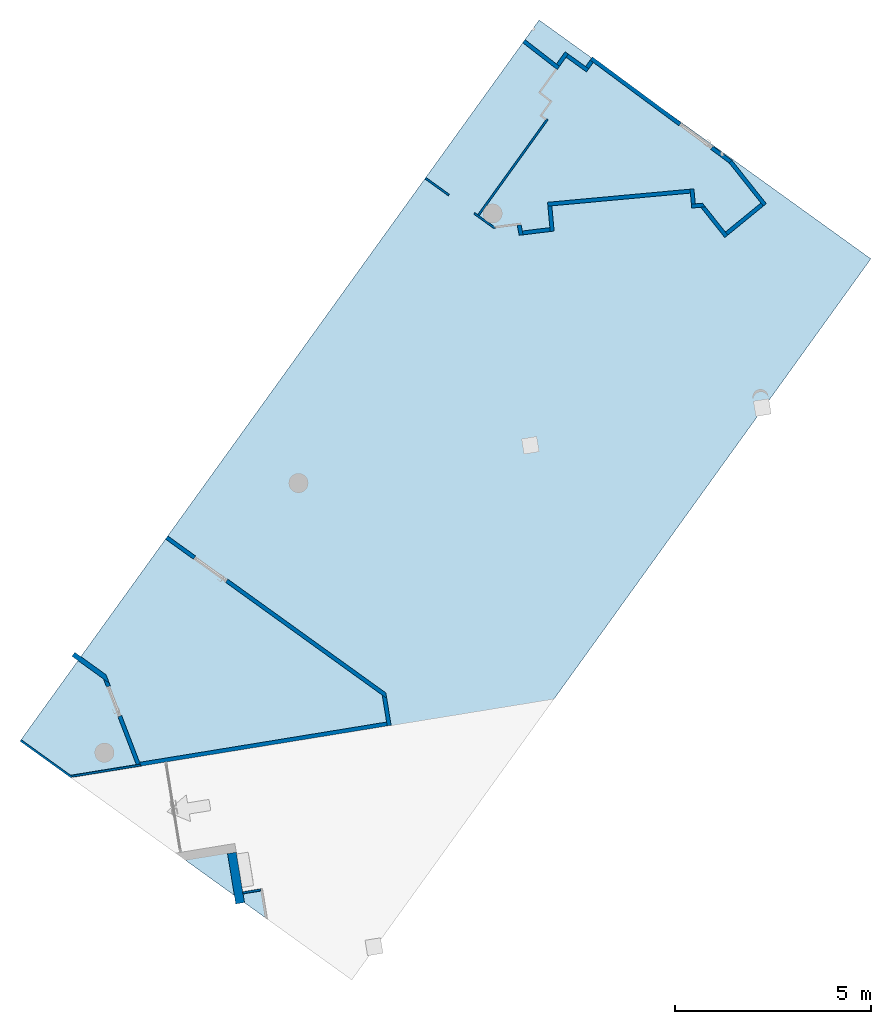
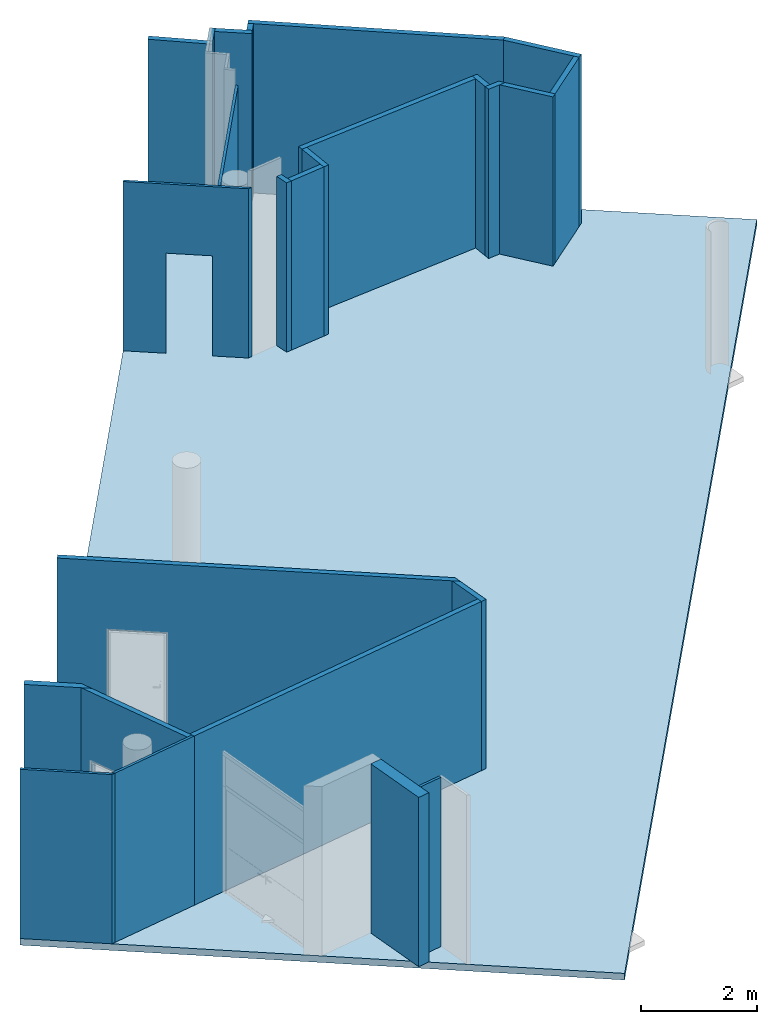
# One storey, part 3 of 10: 25 walls, 1 slab, 4 openings.
"""IFC2X3 building model written with IfcOpenShell, lengths in millimetres."""

from ifc_helpers import new_model, entity, si_unit, converted_unit, derived_unit, direction, frame, frame_2d, origin, origin_with_axes, place, context, subcontext, project, spatial, polyline, rectangle, outline, extrude, clip, bounded_halfspace, faceted_brep, material, layer, layer_set, layer_usage, type_object, element, save


model = new_model("IFC2X3")

# Units and contexts
model_context = context("Model", 3, precision=0.01, world=origin(), true_north=direction((6.12323399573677e-17, 1.0)))
plan_context = context("Plan", 3, precision=1e-05, world=origin_with_axes())
body_context = subcontext(model_context, "Body", "Model", "MODEL_VIEW")
ifc_project = project(units=[converted_unit("PLANEANGLEUNIT", "DEGREE", entity("IfcPositiveLengthMeasure", 0.0174532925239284), si_unit("PLANEANGLEUNIT", "RADIAN"), dimensions=[0, 0, 0, 0, 0, 0, 0]), si_unit("AREAUNIT", "SQUARE_METRE"), si_unit("LENGTHUNIT", "METRE", prefix="MILLI"), si_unit("MASSUNIT", "GRAM", prefix="KILO"), si_unit("POWERUNIT", "WATT"), si_unit("PRESSUREUNIT", "PASCAL", prefix="KILO"), si_unit("FORCEUNIT", "NEWTON", prefix="KILO"), si_unit("ELECTRICVOLTAGEUNIT", "VOLT"), si_unit("ELECTRICCURRENTUNIT", "AMPERE"), si_unit("THERMODYNAMICTEMPERATUREUNIT", "DEGREE_CELSIUS"), si_unit("TIMEUNIT", "SECOND"), si_unit("VOLUMEUNIT", "CUBIC_METRE"), derived_unit("LINEARVELOCITYUNIT", [(si_unit("LENGTHUNIT", "METRE"), 1), (si_unit("TIMEUNIT", "SECOND"), -1)]), derived_unit("VOLUMETRICFLOWRATEUNIT", [(si_unit("VOLUMEUNIT", "CUBIC_METRE"), 1), (si_unit("TIMEUNIT", "SECOND"), -1)]), derived_unit("THERMALTRANSMITTANCEUNIT", [(si_unit("POWERUNIT", "WATT"), 1), (si_unit("THERMODYNAMICTEMPERATUREUNIT", "KELVIN"), -1), (si_unit("AREAUNIT", "SQUARE_METRE"), -1)]), derived_unit("SOUNDPRESSUREUNIT", [(si_unit("PRESSUREUNIT", "PASCAL"), 1)])], contexts=[model_context, plan_context])

# Site, building, storey
site_placement = place(None, frame((-305029.896016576, -232111.759730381, 0.0), z_axis=(0.0, 0.0, 1.0), x_axis=(-0.160806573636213, 0.986985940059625, 0.0)))
site = spatial("IfcSite", under=ifc_project, at=site_placement, Name="Default", CompositionType="ELEMENT")
building_placement = place(site_placement, frame((0.0, 0.0, 0.0), z_axis=(0.0, 0.0, 1.0), x_axis=(1.0, -2.77555756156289e-17, 0.0)))
building = spatial("IfcBuilding", under=site, at=building_placement, Name="br001-a-200-1-0001", CompositionType="ELEMENT")
storey_placement = place(building_placement, frame((0.0, 0.0, 55500.0), z_axis=(0.0, 0.0, 1.0), x_axis=(1.0, -2.77555756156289e-17, 0.0)))
storey = spatial("IfcBuildingStorey", under=building, at=storey_placement, Name="H02-Nivå F-3,5 m", CompositionType="ELEMENT", Elevation=55500.0)

# Slab
ifc_material_1 = material(Name="<Unnamed>")
ifc_layer_1 = layer(ifc_material_1, 138.0)
ifc_layer_set_1 = layer_set([ifc_layer_1], Name="Floor:Generic 138mm")
slab_type = type_object("IfcSlabType", Name="Floor:Generic 138mm", PredefinedType="FLOOR", material=ifc_layer_set_1)
slab_placement = place(storey_placement, frame((1099062.59858442, -755896.827798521, -138.0), z_axis=(0.0, 0.0, 1.0), x_axis=(1.0, -2.77555756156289e-17, 0.0)))
element("IfcSlab", 1, at=slab_placement, inside=storey, type_object=slab_type, Name="Floor:Generic 138mm", ObjectType="Floor:Generic 138mm", PredefinedType="FLOOR", context=body_context, shape_type="Brep", body=[
    faceted_brep([(72870.3046178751, 75828.0487035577, 138.0), (80253.4119063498, 83211.1559920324, 138.0), (96301.6649817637, 67162.9029166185, 138.0), (88918.557693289, 59779.7956281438, 138.0), (80253.4119063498, 83211.1559920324, -3.18323145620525e-12), (72870.3046178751, 75828.0487035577, -3.18323145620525e-12), (88918.557693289, 59779.7956281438, -3.18323145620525e-12), (96301.6649817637, 67162.9029166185, -3.18323145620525e-12)], [[[0, 1, 2, 3]], [[4, 5, 6, 7]], [[3, 2, 7, 6]], [[2, 1, 4, 7]], [[1, 0, 5, 4]], [[0, 3, 6, 5]]], orient=[[False], [False], [False], [False], [False], [False]]),
])

# Walls
ifc_material_2 = material(Name="_NSW Standard")
ifc_layer_2 = layer(ifc_material_2, 125.0)
ifc_layer_set_2 = layer_set([ifc_layer_2], Name="Basic Wall:A242 - Standard 125")
ifc_layer_usage_1 = layer_usage(ifc_layer_set_2, "AXIS2", "NEGATIVE", 62.5)
wall_type_1 = type_object("IfcWallType", Name="Basic Wall:A242 - Standard 125", PredefinedType="STANDARD", material=ifc_layer_set_2)
wall_1_placement = place(storey_placement, frame((1181287.61254209, -674388.573280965, 0.0), z_axis=(0.0, 0.0, 1.0), x_axis=(-0.707106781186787, -0.707106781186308, 0.0)))
element("IfcWallStandardCase", 2, at=wall_1_placement, inside=storey, type_object=wall_type_1, material=ifc_layer_usage_1, Name="Basic Wall:A242 - Standard 125", ObjectType="Basic Wall:A242 - Standard 125", context=body_context, shape_type="SweptSolid", body=[
    extrude(outline(polyline([(1172.83683071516, -62.5000000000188), (982.376188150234, 62.4999999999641), (0.0, 62.4999999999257), (0.0, -62.5000000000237), (990.58380858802, -62.5000000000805), (1172.83683071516, -62.5000000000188)])), origin(), (0.0, 0.0, 1.0), 3550.00000000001),
])
ifc_layer_3 = layer(ifc_material_2, 225.0)
ifc_layer_set_3 = layer_set([ifc_layer_3], Name="Basic Wall:A242 - Standard 225")
ifc_layer_usage_2 = layer_usage(ifc_layer_set_3, "AXIS2", "NEGATIVE", 112.5)
wall_type_2 = type_object("IfcWallType", Name="Basic Wall:A242 - Standard 225", PredefinedType="STANDARD", material=ifc_layer_set_3)
wall_2_placement = place(storey_placement, frame((1175629.09858442, -677568.878367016, 0.0), z_axis=(0.0, 0.0, 1.0), x_axis=(-1.0, 2.77555756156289e-17, 0.0)))
element("IfcWallStandardCase", 3, at=wall_2_placement, inside=storey, type_object=wall_type_2, material=ifc_layer_usage_2, Name="Basic Wall:A242 - Standard 225", ObjectType="Basic Wall:A242 - Standard 225", context=body_context, shape_type="Clipping", body=[
    clip(extrude(rectangle(XDim=1302.00000000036, YDim=225.000000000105, at=frame_2d((651.000000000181, 3.42126327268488e-11), x_axis=(-1.0, 0.0))), origin(), (0.0, 0.0, 1.0), 3550.00000000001), bounded_halfspace(frame((0.0, -112.499999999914, 3550.0), z_axis=(0.0, 0.0, -1.0), x_axis=(-1.0, 0.0, 0.0)), True, frame((0.0, -112.499999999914, 3550.0)), polyline([(0.0, 0.0), (1077.0, 0.0), (1302.0, 0.0), (1302.0, 225.0), (1075.50000000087, 225.0), (1025.50000000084, 225.0), (0.0, 225.0), (0.0, 0.0)]))),
])
ifc_material_3 = material(Name="Glass")
ifc_layer_4 = layer(ifc_material_3, 50.0)
ifc_layer_set_4 = layer_set([ifc_layer_4], Name="Basic Wall:NSW Innvendig - Glassvegg 50")
ifc_layer_usage_3 = layer_usage(ifc_layer_set_4, "AXIS2", "NEGATIVE", 25.0)
wall_type_3 = type_object("IfcWallType", Name="Basic Wall:NSW Innvendig - Glassvegg 50", PredefinedType="STANDARD", material=ifc_layer_set_4)
wall_3_placement = place(storey_placement, frame((1179333.6881603, -672703.349476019, 0.0), z_axis=(0.0, 0.0, 1.0), x_axis=(-0.70710678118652, -0.707106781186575, 0.0)))
element("IfcWallStandardCase", 4, at=wall_3_placement, inside=storey, type_object=wall_type_3, material=ifc_layer_usage_3, Name="Basic Wall:NSW Innvendig - Glassvegg 50", ObjectType="Basic Wall:NSW Innvendig - Glassvegg 50", context=body_context, shape_type="Clipping", body=[
    clip(extrude(outline(polyline([(1588.74435409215, -25.0), (1638.74435409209, 25.0), (1568.03367597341, 25.0), (0.0, 25.0), (0.0, -25.0), (1588.74435409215, -25.0)])), origin(), (0.0, 0.0, 1.0), 3550.00000000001), bounded_halfspace(frame((0.0, -25.0, 3550.0), z_axis=(0.0, 0.0, -1.0), x_axis=(-0.707106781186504, 0.707106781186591, 0.0)), True, frame((0.0, -25.0, 3550.0)), polyline([(0.0, 0.0), (1588.74435409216, 0.0), (1638.74435409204, 50.0), (1568.03367597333, 50.0), (0.0, 50.0), (0.0, 0.0)]))),
])
ifc_layer_usage_4 = layer_usage(ifc_layer_set_4, "AXIS2", "NEGATIVE", 25.0)
wall_4_placement = place(storey_placement, frame((1178217.59858442, -673829.794390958, 0.0), z_axis=(0.0, 0.0, 1.0), x_axis=(-2.77555756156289e-17, -1.0, 0.0)))
element("IfcWallStandardCase", 5, at=wall_4_placement, inside=storey, type_object=wall_type_3, material=ifc_layer_usage_4, Name="Basic Wall:NSW Innvendig - Glassvegg 50", ObjectType="Basic Wall:NSW Innvendig - Glassvegg 50", context=body_context, shape_type="Clipping", body=[
    clip(extrude(outline(polyline([(1804.88463805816, -25.0), (1794.50923242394, 25.0), (1692.37894226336, 25.0), (0.0, 25.0), (50.0, -25.0), (1804.88463805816, -25.0)])), origin(), (0.0, 0.0, 1.0), 3550.00000000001), bounded_halfspace(frame((50.0, -25.0, 3550.0), z_axis=(0.0, 0.0, -1.0), x_axis=(0.0, 1.0, 0.0)), True, frame((50.0, -25.0, 3550.0)), polyline([(0.0, 0.0), (1754.88463805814, 0.0), (1744.50923242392, 50.0), (1642.37894226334, 50.0), (-50.0, 50.0), (0.0, 0.0)]))),
])
ifc_layer_usage_5 = layer_usage(ifc_layer_set_4, "AXIS2", "NEGATIVE", 25.0)
wall_5_placement = place(storey_placement, frame((1174578.59858442, -678138.878367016, 0.0), z_axis=(0.0, 0.0, 1.0), x_axis=(2.77555756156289e-17, 1.0, 0.0)))
element("IfcWallStandardCase", 6, at=wall_5_placement, inside=storey, type_object=wall_type_3, material=ifc_layer_usage_5, Name="Basic Wall:NSW Innvendig - Glassvegg 50", ObjectType="Basic Wall:NSW Innvendig - Glassvegg 50", context=body_context, shape_type="SweptSolid", body=[
    extrude(rectangle(XDim=457.499999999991, YDim=50.0000000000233, at=frame_2d((228.749999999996, 0.0), x_axis=(-1.0, 0.0))), origin(), (0.0, 0.0, 1.0), 3550.00000000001),
])

# Wall, opening
ifc_layer_5 = layer(ifc_material_2, 100.0)
ifc_layer_set_5 = layer_set([ifc_layer_5], Name="Basic Wall:A242 - Standard 100")
ifc_layer_usage_6 = layer_usage(ifc_layer_set_5, "AXIS2", "NEGATIVE", 50.0)
wall_type_4 = type_object("IfcWallType", Name="Basic Wall:A242 - Standard 100", PredefinedType="STANDARD", material=ifc_layer_set_5)
wall_6_placement = place(storey_placement, frame((1183848.43470284, -677218.09601856, 0.0), z_axis=(0.0, 0.0, 1.0), x_axis=(-0.707106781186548, -0.707106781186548, 0.0)))
wall_6 = element("IfcWallStandardCase", 7, at=wall_6_placement, inside=storey, type_object=wall_type_4, material=ifc_layer_usage_6, Name="Basic Wall:A242 - Standard 100", ObjectType="Basic Wall:A242 - Standard 100", context=body_context, shape_type="SweptSolid", body=[
    extrude(outline(polyline([(0.0, -50.0), (6821.65383766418, -50.0), (6963.07519390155, -50.0), (6863.07519390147, 50.0), (0.0, 50.0), (0.0, -50.0)])), origin(), (0.0, 0.0, 1.0), 3550.00000000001),
])
opening_1_placement = place(wall_6_placement, frame((1889.99999999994, 50.0000000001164, 0.0), z_axis=(0.0, 0.0, 1.0), x_axis=(1.0, 5.55111512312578e-17, 0.0)))
element("IfcOpeningElement", 8, at=opening_1_placement, cuts=wall_6, Name="NSW Innvendig slagdør, enkel:ID-10M x 21M:1", ObjectType="Opening", context=body_context, shape_type="SweptSolid", body=[
    extrude(rectangle(XDim=2100.00000000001, YDim=1010.0, at=frame_2d((1050.0, 505.000000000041), x_axis=(1.0, 0.0))), frame((0.0, 0.0, 0.0), z_axis=(0.0, -1.0, 0.0), x_axis=(0.0, 0.0, 1.0)), (0.0, 0.0, 1.0), 100.0),
])

ifc_layer_usage_7 = layer_usage(ifc_layer_set_5, "AXIS2", "NEGATIVE", 50.0)
wall_7_placement = place(storey_placement, frame((1180553.12882956, -675093.784707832, 0.0), z_axis=(0.0, 0.0, 1.0), x_axis=(-0.979141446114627, -0.203179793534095, 0.0)))
wall_7 = element("IfcWallStandardCase", 9, at=wall_7_placement, inside=storey, type_object=wall_type_4, material=ifc_layer_usage_7, Name="Basic Wall:A242 - Standard 100", ObjectType="Basic Wall:A242 - Standard 100", context=body_context, shape_type="SweptSolid", body=[
    extrude(outline(polyline([(0.0, -50.0), (2349.37583797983, -50.0), (2370.12664924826, 50.0), (2319.06150416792, 50.0), (152.368514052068, 50.0), (0.0, -50.0)])), origin(), (0.0, 0.0, 1.0), 3550.00000000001),
])
opening_2_placement = place(wall_7_placement, frame((1035.58822284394, 50.0, 0.0), z_axis=(0.0, 0.0, 1.0), x_axis=(1.0, 0.0, 0.0)))
element("IfcOpeningElement", 10, at=opening_2_placement, cuts=wall_7, Name="NSW Innvendig slagdør, enkel:8M x 21M:1", ObjectType="Opening", context=body_context, shape_type="SweptSolid", body=[
    extrude(rectangle(XDim=2100.00000000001, YDim=810.0, at=frame_2d((1050.0, 405.000000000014), x_axis=(1.0, 0.0))), frame((0.0, 0.0, 0.0), z_axis=(0.0, -1.0, 0.0), x_axis=(0.0, 0.0, 1.0)), (0.0, 0.0, 1.0), 100.0),
])

# Walls
ifc_layer_usage_8 = layer_usage(ifc_layer_set_5, "AXIS2", "NEGATIVE", 50.0)
wall_8_placement = place(storey_placement, frame((1178989.44167626, -682056.37836702, 0.0), z_axis=(0.0, 0.0, 1.0), x_axis=(-1.0, 2.77555756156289e-17, 0.0)))
element("IfcWallStandardCase", 11, at=wall_8_placement, inside=storey, type_object=wall_type_4, material=ifc_layer_usage_8, Name="Basic Wall:A242 - Standard 100", ObjectType="Basic Wall:A242 - Standard 100", context=body_context, shape_type="SweptSolid", body=[
    extrude(outline(polyline([(796.843091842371, -50.0), (796.843091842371, 50.0), (100.0, 50.0), (0.0, -50.0), (696.843091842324, -50.0), (796.843091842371, -50.0)])), origin(), (0.0, 0.0, 1.0), 3550.00000000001),
])
ifc_layer_usage_9 = layer_usage(ifc_layer_set_5, "AXIS2", "NEGATIVE", 50.0)
wall_9_placement = place(storey_placement, frame((1178242.59858442, -682006.37836702, 0.0), z_axis=(0.0, 0.0, 1.0), x_axis=(2.77555756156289e-17, 1.0, 0.0)))
element("IfcWallStandardCase", 12, at=wall_9_placement, inside=storey, type_object=wall_type_4, material=ifc_layer_usage_9, Name="Basic Wall:A242 - Standard 100", ObjectType="Basic Wall:A242 - Standard 100", context=body_context, shape_type="SweptSolid", body=[
    extrude(outline(polyline([(6392.45014927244, -50.0), (6382.07474363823, 0.0), (6371.69933800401, 50.0), (0.0, 50.0), (0.0, -50.0), (6392.45014927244, -50.0)])), origin(), (0.0, 0.0, 1.0), 3550.00000000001),
])

# Wall, opening
ifc_layer_usage_10 = layer_usage(ifc_layer_set_5, "AXIS2", "NEGATIVE", 50.0)
wall_10_placement = place(storey_placement, frame((1194179.32891897, -689890.815086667, 0.0), z_axis=(0.0, 0.0, 1.0), x_axis=(-0.716617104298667, -0.697466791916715, 0.0)))
wall_10 = element("IfcWallStandardCase", 13, at=wall_10_placement, inside=storey, type_object=wall_type_4, material=ifc_layer_usage_10, Name="Basic Wall:A242 - Standard 100", ObjectType="Basic Wall:A242 - Standard 100", context=body_context, shape_type="SweptSolid", body=[
    extrude(outline(polyline([(1.35425574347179, -50.0), (101.363425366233, -50.0), (4419.81441258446, -50.0), (4433.01492273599, 50.0), (4308.2686197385, 50.0), (4164.89261795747, 50.0), (0.0, 50.0), (1.35425574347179, -50.0)])), origin(), (0.0, 0.0, 1.0), 3550.00000000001),
])
opening_3_placement = place(wall_10_placement, frame((2821.17210464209, -50.0, 0.0), z_axis=(0.0, 0.0, 1.0), x_axis=(1.0, 0.0, 0.0)))
element("IfcOpeningElement", 14, at=opening_3_placement, cuts=wall_10, Name="NSW Innvendig slagdør, enkel:ID-10M x 21M:1", ObjectType="Opening", context=body_context, shape_type="SweptSolid", body=[
    extrude(rectangle(XDim=2100.00000000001, YDim=1010.0, at=frame_2d((1050.0, 505.000000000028), x_axis=(1.0, 0.0))), frame((0.0, 0.0, 0.0), z_axis=(0.0, 1.0, 0.0), x_axis=(0.0, 0.0, 1.0)), (0.0, 0.0, 1.0), 100.0),
])

# Walls
ifc_layer_usage_11 = layer_usage(ifc_layer_set_5, "AXIS2", "POSITIVE", -50.0)
wall_11_placement = place(storey_placement, frame((1190003.343422, -692083.401710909, 0.0), z_axis=(0.0, 0.0, 1.0), x_axis=(-0.873054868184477, -0.487621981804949, 0.0)))
element("IfcWallStandardCase", 15, at=wall_11_placement, inside=storey, type_object=wall_type_4, material=ifc_layer_usage_11, Name="Basic Wall:A242 - Standard 100", ObjectType="Basic Wall:A242 - Standard 100", context=body_context, shape_type="SweptSolid", body=[
    extrude(outline(polyline([(987.555520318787, -50.0), (986.131935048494, 50.0), (886.121802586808, 50.0), (65.4169629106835, 50.0), (0.0, -50.0), (987.555520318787, -50.0)])), origin(), (0.0, 0.0, 1.0), 3550.00000000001),
])
ifc_layer_usage_12 = layer_usage(ifc_layer_set_5, "AXIS2", "POSITIVE", -50.0)
wall_12_placement = place(storey_placement, frame((1189210.07850471, -692582.914062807, 0.0), z_axis=(0.0, 0.0, 1.0), x_axis=(0.500000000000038, -0.866025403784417, 0.0)))
element("IfcWallStandardCase", 16, at=wall_12_placement, inside=storey, type_object=wall_type_4, material=ifc_layer_usage_12, Name="Basic Wall:A242 - Standard 100", ObjectType="Basic Wall:A242 - Standard 100", context=body_context, shape_type="SweptSolid", body=[
    extrude(outline(polyline([(1170.77632955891, -50.0), (1172.19991482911, 50.0), (1.42358527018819, 50.0), (0.0, -50.0), (1170.77632955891, -50.0)])), origin(), (0.0, 0.0, 1.0), 3550.00000000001),
])
ifc_layer_usage_13 = layer_usage(ifc_layer_set_5, "AXIS2", "NEGATIVE", 50.0)
wall_13_placement = place(storey_placement, frame((1190631.04988463, -688240.994209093, 0.0), z_axis=(0.0, 0.0, 1.0), x_axis=(-0.997555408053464, 0.069879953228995, 0.0)))
element("IfcWallStandardCase", 17, at=wall_13_placement, inside=storey, type_object=wall_type_4, material=ifc_layer_usage_13, Name="Basic Wall:A242 - Standard 100", ObjectType="Basic Wall:A242 - Standard 100", context=body_context, shape_type="SweptSolid", body=[
    extrude(outline(polyline([(650.188236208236, -50.0), (647.240230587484, 50.0), (0.0, 50.0), (0.0, -50.0), (550.14479195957, -50.0), (650.188236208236, -50.0)])), origin(), (0.0, 0.0, 1.0), 3550.00000000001),
])
ifc_layer_usage_14 = layer_usage(ifc_layer_set_5, "AXIS2", "NEGATIVE", 50.0)
wall_14_placement = place(storey_placement, frame((1190035.78490056, -688150.649626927, 0.0), z_axis=(0.0, 0.0, 1.0), x_axis=(0.0404543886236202, 0.999181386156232, 0.0)))
element("IfcWallStandardCase", 18, at=wall_14_placement, inside=storey, type_object=wall_type_4, material=ifc_layer_usage_14, Name="Basic Wall:A242 - Standard 100", ObjectType="Basic Wall:A242 - Standard 100", context=body_context, shape_type="SweptSolid", body=[
    extrude(outline(polyline([(708.373740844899, -50.0), (700.822233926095, 50.0), (2.94800562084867, 50.0), (0.0, -50.0), (708.373740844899, -50.0)])), origin(), (0.0, 0.0, 1.0), 3550.00000000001),
])
ifc_layer_usage_15 = layer_usage(ifc_layer_set_5, "AXIS2", "NEGATIVE", 50.0)
wall_15_placement = place(storey_placement, frame((1191013.04684223, -692974.873895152, 0.0), z_axis=(0.0, 0.0, 1.0), x_axis=(-0.873054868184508, -0.487621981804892, 0.0)))
element("IfcWallStandardCase", 19, at=wall_15_placement, inside=storey, type_object=wall_type_4, material=ifc_layer_usage_15, Name="Basic Wall:A242 - Standard 100", ObjectType="Basic Wall:A242 - Standard 100", context=body_context, shape_type="SweptSolid", body=[
    extrude(outline(polyline([(1416.29167753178, -50.0), (1414.8680922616, 50.0), (0.0, 50.0), (13.2005101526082, -50.0), (1316.2815450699, -50.0), (1416.29167753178, -50.0)])), origin(), (0.0, 0.0, 1.0), 3550.00000000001),
])
ifc_layer_usage_16 = layer_usage(ifc_layer_set_5, "AXIS2", "NEGATIVE", 50.0)
wall_16_placement = place(storey_placement, frame((1194894.27008661, -688261.420727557, 0.0), z_axis=(0.0, 0.0, 1.0), x_axis=(-0.731767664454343, -0.681554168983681, 0.0)))
element("IfcWallStandardCase", 20, at=wall_16_placement, inside=storey, type_object=wall_type_4, material=ifc_layer_usage_16, Name="Basic Wall:A242 - Standard 100", ObjectType="Basic Wall:A242 - Standard 100", context=body_context, shape_type="SweptSolid", body=[
    extrude(outline(polyline([(1118.56376791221, -50.0), (1115.01089734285, 50.0), (1014.94780280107, 50.0), (0.0, 50.0), (0.0, -50.0), (1068.53222064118, -50.0), (1118.56376791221, -50.0)])), origin(), (0.0, 0.0, 1.0), 3550.00000000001),
])
ifc_layer_usage_17 = layer_usage(ifc_layer_set_5, "AXIS2", "NEGATIVE", 50.0)
wall_17_placement = place(storey_placement, frame((1194147.77421393, -689022.594097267, 0.0), z_axis=(0.0, 0.0, 1.0), x_axis=(0.707106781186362, -0.707106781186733, 0.0)))
element("IfcWallStandardCase", 21, at=wall_17_placement, inside=storey, type_object=wall_type_4, material=ifc_layer_usage_17, Name="Basic Wall:A242 - Standard 100", ObjectType="Basic Wall:A242 - Standard 100", context=body_context, shape_type="SweptSolid", body=[
    extrude(outline(polyline([(385.445896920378, -50.0), (385.445896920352, 50.0), (3.5528705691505, 50.0), (0.0, -50.0), (285.445896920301, -50.0), (385.445896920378, -50.0)])), origin(), (0.0, 0.0, 1.0), 3550.00000000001),
])
ifc_layer_usage_18 = layer_usage(ifc_layer_set_5, "AXIS2", "NEGATIVE", 50.0)
wall_18_placement = place(storey_placement, frame((1194349.6149433, -689295.14550476, 0.0), z_axis=(0.0, 0.0, 1.0), x_axis=(-0.707106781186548, -0.707106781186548, 0.0)))
element("IfcWallStandardCase", 22, at=wall_18_placement, inside=storey, type_object=wall_type_4, material=ifc_layer_usage_18, Name="Basic Wall:A242 - Standard 100", ObjectType="Basic Wall:A242 - Standard 100", context=body_context, shape_type="SweptSolid", body=[
    extrude(rectangle(XDim=642.289469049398, YDim=99.999999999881, at=frame_2d((321.144734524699, -7.105427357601e-15), x_axis=(-1.0, 0.0))), origin(), (0.0, 0.0, 1.0), 3550.00000000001),
])
ifc_layer_usage_19 = layer_usage(ifc_layer_set_5, "AXIS2", "NEGATIVE", 50.0)
wall_19_placement = place(storey_placement, frame((1193966.15838237, -689749.312743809, 0.0), z_axis=(0.0, 0.0, 1.0), x_axis=(0.707106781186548, -0.707106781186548, 0.0)))
element("IfcWallStandardCase", 23, at=wall_19_placement, inside=storey, type_object=wall_type_4, material=ifc_layer_usage_19, Name="Basic Wall:A242 - Standard 100", ObjectType="Basic Wall:A242 - Standard 100", context=body_context, shape_type="SweptSolid", body=[
    extrude(outline(polyline([(199.42358840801, -50.0), (200.77784415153, 50.0), (0.0, 50.0), (0.0, -50.0), (199.42358840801, -50.0)])), origin(), (0.0, 0.0, 1.0), 3550.00000000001),
])
ifc_layer_usage_20 = layer_usage(ifc_layer_set_5, "AXIS2", "NEGATIVE", 50.0)
wall_20_placement = place(storey_placement, frame((1190020.48969356, -692162.447201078, 0.0), z_axis=(0.0, 0.0, 1.0), x_axis=(0.0698799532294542, 0.997555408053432, 0.0)))
element("IfcWallStandardCase", 24, at=wall_20_placement, inside=storey, type_object=wall_type_4, material=ifc_layer_usage_20, Name="Basic Wall:A242 - Standard 100", ObjectType="Basic Wall:A242 - Standard 100", context=body_context, shape_type="SweptSolid", body=[
    extrude(outline(polyline([(350.07401313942, -50.0), (350.074013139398, 50.0), (119.49635574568, 50.0), (0.0, 50.0), (65.4169629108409, -50.0), (250.074013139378, -50.0), (350.07401313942, -50.0)])), origin(), (0.0, 0.0, 1.0), 3550.00000000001),
])
ifc_layer_usage_21 = layer_usage(ifc_layer_set_5, "AXIS2", "NEGATIVE", 50.0)
wall_21_placement = place(storey_placement, frame((1190091.33662196, -691866.600744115, 0.0), z_axis=(0.0, 0.0, 1.0), x_axis=(0.997555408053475, -0.0698799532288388, 0.0)))
element("IfcWallStandardCase", 25, at=wall_21_placement, inside=storey, type_object=wall_type_4, material=ifc_layer_usage_21, Name="Basic Wall:A242 - Standard 100", ObjectType="Basic Wall:A242 - Standard 100", context=body_context, shape_type="SweptSolid", body=[
    extrude(rectangle(XDim=385.036668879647, YDim=99.9999999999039, at=frame_2d((192.518334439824, 5.49960077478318e-12), x_axis=(-1.0, 0.0))), origin(), (0.0, 0.0, 1.0), 3550.00000000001),
])
ifc_layer_usage_22 = layer_usage(ifc_layer_set_5, "AXIS2", "NEGATIVE", 50.0)
wall_22_placement = place(storey_placement, frame((1190429.04826056, -691840.135320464, 0.0), z_axis=(0.0, 0.0, 1.0), x_axis=(0.0698799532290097, 0.997555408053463, 0.0)))
element("IfcWallStandardCase", 26, at=wall_22_placement, inside=storey, type_object=wall_type_4, material=ifc_layer_usage_22, Name="Basic Wall:A242 - Standard 100", ObjectType="Basic Wall:A242 - Standard 100", context=body_context, shape_type="SweptSolid", body=[
    extrude(rectangle(XDim=3654.45854403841, YDim=99.9999999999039, at=frame_2d((1827.22927201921, 3.83195697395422e-11), x_axis=(-1.0, 0.0))), origin(), (0.0, 0.0, 1.0), 3550.00000000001),
])
ifc_layer_usage_23 = layer_usage(ifc_layer_set_5, "AXIS2", "NEGATIVE", 50.0)
wall_23_placement = place(storey_placement, frame((1190012.43219142, -687398.408835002, 0.0), z_axis=(0.0, 0.0, 1.0), x_axis=(0.999390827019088, 0.0348994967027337, 0.0)))
element("IfcWallStandardCase", 27, at=wall_23_placement, inside=storey, type_object=wall_type_4, material=ifc_layer_usage_23, Name="Basic Wall:A242 - Standard 100", ObjectType="Basic Wall:A242 - Standard 100", context=body_context, shape_type="SweptSolid", body=[
    extrude(outline(polyline([(261.025135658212, -50.0), (267.817994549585, 50.0), (7.55150691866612, 50.0), (0.0, -50.0), (100.28472095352, -50.0), (261.025135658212, -50.0)])), origin(), (0.0, 0.0, 1.0), 3550.00000000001),
])

# Wall, opening
ifc_layer_6 = layer(ifc_material_2, 50.0)
ifc_layer_set_6 = layer_set([ifc_layer_6], Name="Basic Wall:A242 - Standard 50")
ifc_layer_usage_24 = layer_usage(ifc_layer_set_6, "AXIS2", "NEGATIVE", 25.0)
wall_type_5 = type_object("IfcWallType", Name="Basic Wall:A242 - Standard 50", PredefinedType="STANDARD", material=ifc_layer_set_6)
wall_24_placement = place(storey_placement, frame((1191845.96749975, -685215.628815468, 0.0), z_axis=(0.0, 0.0, 1.0), x_axis=(-0.707106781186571, -0.707106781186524, 0.0)))
wall_24 = element("IfcWallStandardCase", 28, at=wall_24_placement, inside=storey, type_object=wall_type_5, material=ifc_layer_usage_24, Name="Basic Wall:A242 - Standard 50", ObjectType="Basic Wall:A242 - Standard 50", context=body_context, shape_type="Clipping", body=[
    clip(extrude(outline(polyline([(0.0, -25.0), (2163.48799689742, -25.0), (2216.89309645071, 25.0), (1679.39339828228, 25.0), (1629.39339828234, 25.0), (0.0, 25.0), (0.0, -25.0)])), origin(), (0.0, 0.0, 1.0), 3550.00000000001), bounded_halfspace(frame((0.0, -25.0, 3550.0), z_axis=(0.0, 0.0, -1.0), x_axis=(-0.707106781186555, 0.70710678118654, 0.0)), True, frame((0.0, -25.0, 3550.0)), polyline([(0.0, 0.0), (2163.48799689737, 0.0), (2216.89309645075, 50.0), (1679.39339828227, 50.0), (1629.39339828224, 50.0), (0.0, 50.0), (0.0, 0.0)]))),
])
opening_4_placement = place(wall_24_placement, frame((358241.748038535, -1327282.98345932, 0.0), z_axis=(0.0, 0.0, 1.0), x_axis=(-0.707106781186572, 0.707106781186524, 0.0)))
element("IfcOpeningElement", 29, at=opening_4_placement, cuts=wall_24, Name="Basic Wall:A242 - Standard 50", ObjectType="Opening", context=body_context, shape_type="SweptSolid", body=[
    extrude(rectangle(XDim=2099.99999999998, YDim=800.000000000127, at=frame_2d((4.32009983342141e-12, -4.89990270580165e-11), x_axis=(1.0, 0.0))), frame((1189944.98629732, -684925.993209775, 1050.0), z_axis=(0.707106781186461, -0.707106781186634, 0.0), x_axis=(0.0, 0.0, 1.0)), (0.0, 0.0, 1.0), 3048.0),
])

# Wall
ifc_layer_usage_25 = layer_usage(ifc_layer_set_6, "AXIS2", "NEGATIVE", 25.0)
wall_25_placement = place(storey_placement, frame((1190693.8123786, -686403.139275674, 0.0), z_axis=(0.0, 0.0, 1.0), x_axis=(0.707106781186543, -0.707106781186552, 0.0)))
element("IfcWallStandardCase", 30, at=wall_25_placement, inside=storey, type_object=wall_type_5, material=ifc_layer_usage_25, Name="Basic Wall:A242 - Standard 50", ObjectType="Basic Wall:A242 - Standard 50", context=body_context, shape_type="Clipping", body=[
    clip(extrude(rectangle(XDim=3016.71583320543, YDim=49.9999999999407, at=frame_2d((1508.35791660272, 9.04876173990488e-12), x_axis=(-1.0, 0.0))), origin(), (0.0, 0.0, 1.0), 3550.00000000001), bounded_halfspace(frame((0.0, -25.0, 3550.0), z_axis=(0.0, 0.0, -1.0), x_axis=(0.70710678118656, 0.707106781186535, 0.0)), True, frame((0.0, -25.0, 3550.0)), polyline([(0.0, 0.0), (3016.71583320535, 0.0), (3016.71583320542, 50.0), (0.0, 50.0), (0.0, 0.0)]))),
])

save(model, "model.ifc")
